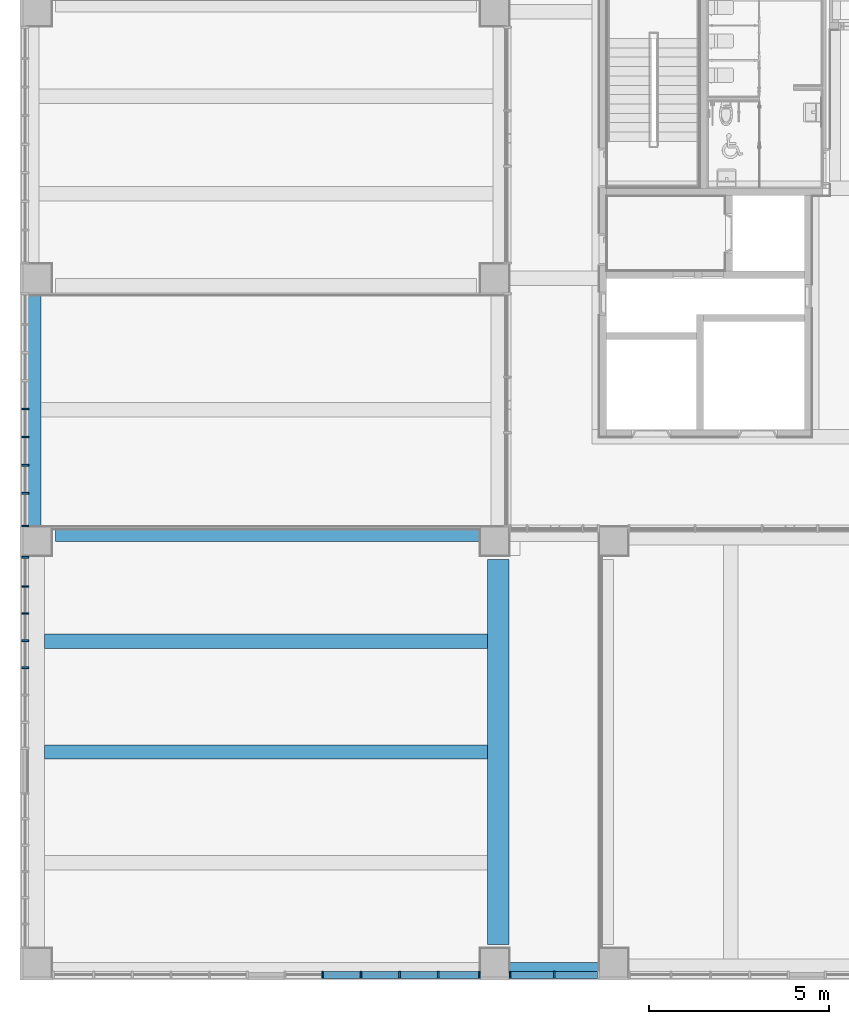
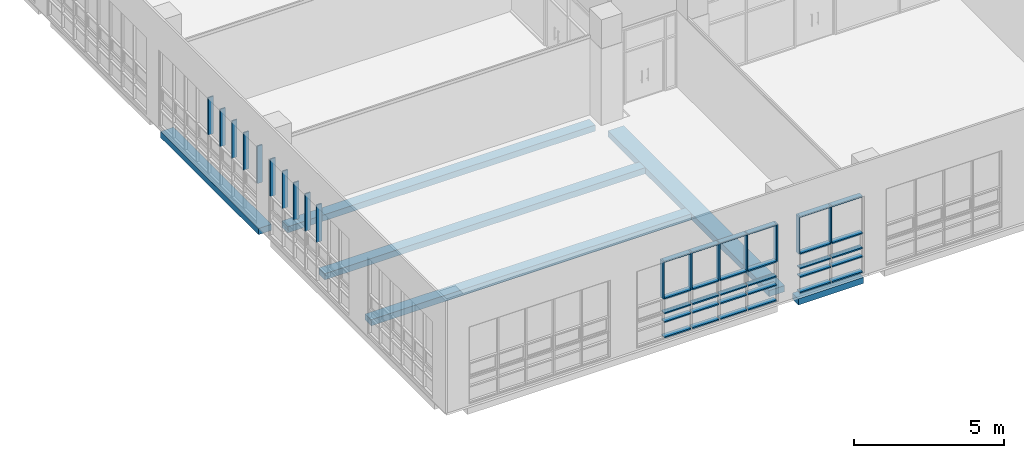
# One storey, part 3 of 74: 47 members, 6 beams, 4 elements without a shape of their own.
"""IFC2X3 building model written with IfcOpenShell, lengths in millimetres."""

import ifcopenshell
import ifcopenshell.guid

model = None  # the IFC model being written
_history = None  # IfcOwnerHistory: only IFC2X3 demands one
_inside = {}  # id of a spatial element -> (the spatial element, [elements in it])
_under = {}  # id of a project, library or spatial element -> (it, [spatial elements below it])
_declared = {}  # id of a project -> (the project, [libraries it declares])
_typed = {}  # id of a type object -> (the type object, [elements of that type])
_made_of = {}  # id of a material, layer set ... -> (it, [elements and type objects made of it])


def new_model(schema):
    """Start an empty IFC model of exactly this schema.

    Asked for "IFC4X3", IfcOpenShell would pick the latest addendum, in which some entities
    have other attributes; the version numbers below select the first issue.
    IFC2X3 requires an IfcOwnerHistory on every rooted entity: one is made here for all.
    """
    global model, _history
    if schema == "IFC4X3":
        model = ifcopenshell.file(schema_version=(4, 3, 0, 0))
    else:
        model = ifcopenshell.file(schema=schema)
    _inside.clear()
    _under.clear()
    _declared.clear()
    _typed.clear()
    _made_of.clear()
    _history = None
    if model.schema == "IFC2X3":
        org = make("IfcOrganization", Name="unknown")
        user = make(
            "IfcPersonAndOrganization",
            ThePerson=make("IfcPerson", FamilyName="unknown"),
            TheOrganization=org,
        )
        app = make(
            "IfcApplication",
            ApplicationDeveloper=org,
            Version="unknown",
            ApplicationFullName="unknown",
            ApplicationIdentifier="unknown",
        )
        _history = make(
            "IfcOwnerHistory",
            OwningUser=user,
            OwningApplication=app,
            ChangeAction="ADDED",
            CreationDate=0,
        )
    return model


def make(cls, **values):
    """One entity of the class cls with the attributes given. An attribute that is None is left unset."""
    return model.create_entity(
        cls, **{name: value for name, value in values.items() if value is not None}
    )


def entity(cls, *values):
    """Any entity or typed value of the class cls, its attributes in the order of the schema. None: left unset."""
    e = model.create_entity(cls)
    for i, value in enumerate(values):
        if value is not None:
            e[i] = value
    return e


def rooted(cls, **values):
    """An entity with a GlobalId (a new one), such as an element, a storey or a relation."""
    return make(cls, GlobalId=ifcopenshell.guid.new(), OwnerHistory=_history, **values)


def si_unit(unit_type, name, prefix=None):
    """IfcSIUnit, for example si_unit("LENGTHUNIT", "METRE", prefix="MILLI")."""
    return make("IfcSIUnit", UnitType=unit_type, Prefix=prefix, Name=name)


def converted_unit(unit_type, name, factor, base, dimensions=None, offset=None):
    """IfcConversionBasedUnit, such as the inch: factor (a typed value) times the base unit."""
    return make(
        "IfcConversionBasedUnit"
        if offset is None
        else "IfcConversionBasedUnitWithOffset",
        ConversionOffset=offset,
        Dimensions=None
        if dimensions is None
        else entity("IfcDimensionalExponents", *dimensions),
        UnitType=unit_type,
        Name=name,
        ConversionFactor=make(
            "IfcMeasureWithUnit", ValueComponent=factor, UnitComponent=base
        ),
    )


def derived_unit(unit_type, elements):
    """IfcDerivedUnit: a product of units, each with its exponent."""
    return make(
        "IfcDerivedUnit",
        Elements=[
            make("IfcDerivedUnitElement", Unit=unit, Exponent=power)
            for unit, power in elements
        ],
        UnitType=unit_type,
    )


def assignment(units):
    """IfcUnitAssignment: the units of a project."""
    return None if units is None else make("IfcUnitAssignment", Units=units)


def point(xyz):
    """IfcCartesianPoint."""
    return None if xyz is None else make("IfcCartesianPoint", Coordinates=xyz)


def direction(xyz):
    """IfcDirection."""
    return None if xyz is None else make("IfcDirection", DirectionRatios=xyz)


def frame(location, z_axis=None, x_axis=None):
    """IfcAxis2Placement3D, a coordinate frame: its origin and axes. An axis left out is left unset."""
    return make(
        "IfcAxis2Placement3D",
        Location=point(location),
        Axis=direction(z_axis),
        RefDirection=direction(x_axis),
    )


def frame_2d(location, x_axis=None):
    """IfcAxis2Placement2D, a coordinate frame in the plane: its origin and x axis."""
    return make(
        "IfcAxis2Placement2D", Location=point(location), RefDirection=direction(x_axis)
    )


def origin():
    """The frame at (0, 0, 0) with its axes left unset."""
    return frame((0.0, 0.0, 0.0))


def origin_2d_with_axis():
    """The frame at (0, 0) in the plane with the x axis (1, 0) written out."""
    return frame_2d((0.0, 0.0), x_axis=(1.0, 0.0))


def place(relative_to, where):
    """IfcLocalPlacement: puts the frame where relative to a parent placement (None: the world)."""
    return make(
        "IfcLocalPlacement", PlacementRelTo=relative_to, RelativePlacement=where
    )


def context(
    kind, dimensions, precision=None, world=None, true_north=None, identifier=None
):
    """IfcGeometricRepresentationContext, for example the 3D "Model" context."""
    return make(
        "IfcGeometricRepresentationContext",
        ContextIdentifier=identifier,
        ContextType=kind,
        CoordinateSpaceDimension=dimensions,
        Precision=precision,
        WorldCoordinateSystem=world,
        TrueNorth=true_north,
    )


def subcontext(parent, identifier, kind, view, scale=None):
    """IfcGeometricRepresentationSubContext, for example "Body" below "Model"."""
    return make(
        "IfcGeometricRepresentationSubContext",
        ContextIdentifier=identifier,
        ContextType=kind,
        ParentContext=parent,
        TargetScale=scale,
        TargetView=view,
    )


def project(units=None, contexts=None):
    """IfcProject with its units and contexts."""
    return rooted(
        "IfcProject",
        Name="project",
        RepresentationContexts=contexts,
        UnitsInContext=assignment(units),
    )


def spatial(cls, under=None, at=None, **own):
    """A site, building, storey or space (cls), placed at a placement, below another one or the project."""
    s = rooted(cls, ObjectPlacement=at, **own)
    if under is not None:
        _under.setdefault(under.id(), (under, []))[1].append(s)
    return s


def profile(cls, at=None, kind="AREA", **sizes):
    """A parametric profile (cls). Its sizes go by their IFC names, for example OverallWidth=200.0."""
    return make(cls, ProfileType=kind, Position=at, **sizes)


def rectangle(**sizes):
    """IfcRectangleProfileDef."""
    return profile("IfcRectangleProfileDef", **sizes)


def extrude(swept, where, along, depth):
    """IfcExtrudedAreaSolid: the profile swept, set in the frame where, extruded along a direction by depth."""
    return make(
        "IfcExtrudedAreaSolid",
        SweptArea=swept,
        Position=where,
        ExtrudedDirection=direction(along),
        Depth=depth,
    )


def shape(context_of_items, identifier, shape_type, items):
    """IfcShapeRepresentation: the items that make up one representation, for example the "Body"."""
    return make(
        "IfcShapeRepresentation",
        ContextOfItems=context_of_items,
        RepresentationIdentifier=identifier,
        RepresentationType=shape_type,
        Items=items,
    )


def source(mapping_origin, context_of_items, identifier, shape_type, items):
    """IfcRepresentationMap: a shape defined once, which mapped items show again and again."""
    return make(
        "IfcRepresentationMap",
        MappingOrigin=mapping_origin,
        MappedRepresentation=shape(context_of_items, identifier, shape_type, items),
    )


def transform(
    local_origin,
    x_axis=None,
    y_axis=None,
    z_axis=None,
    scale=None,
    scale2=None,
    scale3=None,
    uniform=True,
):
    """IfcCartesianTransformationOperator3D, or its non-uniform kind. x_axis, y_axis, z_axis: its Axis1, 2, 3."""
    if uniform:
        return make(
            "IfcCartesianTransformationOperator3D",
            Axis1=direction(x_axis),
            Axis2=direction(y_axis),
            LocalOrigin=point(local_origin),
            Scale=scale,
            Axis3=direction(z_axis),
        )
    return make(
        "IfcCartesianTransformationOperator3DnonUniform",
        Axis1=direction(x_axis),
        Axis2=direction(y_axis),
        LocalOrigin=point(local_origin),
        Scale=scale,
        Axis3=direction(z_axis),
        Scale2=scale2,
        Scale3=scale3,
    )


def mapped(mapping_source, mapping_target):
    """IfcMappedItem: shows the shape of a source again, moved by a transform."""
    return make(
        "IfcMappedItem", MappingSource=mapping_source, MappingTarget=mapping_target
    )


def material(Name=None, Category=None):
    """IfcMaterial."""
    return make("IfcMaterial", Name=Name, Category=Category)


def made_of(thing, what):
    """Note that an element or type object is made of a material, layer set ...; save() writes the relation."""
    if what is not None:
        _made_of.setdefault(what.id(), (what, []))[1].append(thing)
    return thing


def type_object(cls, material=None, **own):
    """A type object (cls), such as IfcWallType, which elements share."""
    return made_of(rooted(cls, **own), material)


def type_shapes(of_type, sources):
    """Give a type object the sources (RepresentationMaps) that its elements show as mapped items."""
    of_type.RepresentationMaps = sources


def element(
    cls,
    number,
    at=None,
    inside=None,
    cuts=None,
    type_object=None,
    material=None,
    context=None,
    identifier="Body",
    shape_type=None,
    held_by="IfcProductDefinitionShape",
    body=None,
    shapes=None,
    **own,
):
    """One element of the class cls, such as IfcWall. Its Tag is "e" and its number.

    at: its placement. inside: the storey or other place that contains it. cuts: it is an
    opening in that element (IfcRelVoidsElement). A single representation is given by context,
    identifier, shape_type and body (its items); several are given by shapes. held_by: the class
    of the entity that holds the representations. save() writes the other relations.
    """
    e = rooted(cls, Tag="e%d" % number, ObjectPlacement=at, **own)
    if body is not None:
        shapes = [shape(context, identifier, shape_type, body)]
    if shapes is not None:
        e.Representation = make(held_by, Representations=shapes)
    if inside is not None:
        _inside.setdefault(inside.id(), (inside, []))[1].append(e)
    if cuts is not None:
        rooted(
            "IfcRelVoidsElement", RelatingBuildingElement=cuts, RelatedOpeningElement=e
        )
    if type_object is not None:
        _typed.setdefault(type_object.id(), (type_object, []))[1].append(e)
    return made_of(e, material)


def aggregate(whole, parts):
    """IfcRelAggregates: a whole, such as a stair, and the parts it consists of."""
    return rooted("IfcRelAggregates", RelatingObject=whole, RelatedObjects=parts)


def save(model, path):
    """Write the relations noted so far, then the file.

    IfcRelAggregates (storeys below a building ...), IfcRelContainedInSpatialStructure (elements
    in a storey), IfcRelDefinesByType, IfcRelAssociatesMaterial and IfcRelDeclares: one each for
    every whole, place, type object, material and project.
    """
    for whole, parts in _under.values():
        aggregate(whole, parts)
    for where, things in _inside.values():
        rooted(
            "IfcRelContainedInSpatialStructure",
            RelatedElements=things,
            RelatingStructure=where,
        )
    for kind, things in _typed.values():
        rooted("IfcRelDefinesByType", RelatedObjects=things, RelatingType=kind)
    for what, things in _made_of.values():
        rooted("IfcRelAssociatesMaterial", RelatedObjects=things, RelatingMaterial=what)
    for by, libraries in _declared.values():
        rooted("IfcRelDeclares", RelatingContext=by, RelatedDefinitions=libraries)
    model.write(path)


model = new_model("IFC2X3")

# Units and contexts
model_context = context("Model", 3, precision=0.01, world=origin(), true_north=direction((6.123031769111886e-17, 1.0)))
body_context = subcontext(model_context, "Body", "Model", "MODEL_VIEW")
ifc_project = project(units=[si_unit("LENGTHUNIT", "METRE", prefix="MILLI"), si_unit("AREAUNIT", "SQUARE_METRE"), si_unit("VOLUMEUNIT", "CUBIC_METRE"), converted_unit("PLANEANGLEUNIT", "DEGREE", entity("IfcRatioMeasure", 0.017453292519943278), si_unit("PLANEANGLEUNIT", "RADIAN"), dimensions=[0, 0, 0, 0, 0, 0, 0]), si_unit("MASSUNIT", "GRAM", prefix="KILO"), derived_unit("MASSDENSITYUNIT", [(si_unit("MASSUNIT", "GRAM", prefix="KILO"), 1), (si_unit("LENGTHUNIT", "METRE"), -3)]), derived_unit("MOMENTOFINERTIAUNIT", [(si_unit("LENGTHUNIT", "METRE"), 4)]), si_unit("TIMEUNIT", "SECOND"), si_unit("FREQUENCYUNIT", "HERTZ"), si_unit("THERMODYNAMICTEMPERATUREUNIT", "DEGREE_CELSIUS"), derived_unit("THERMALTRANSMITTANCEUNIT", [(si_unit("MASSUNIT", "GRAM", prefix="KILO"), 1), (si_unit("THERMODYNAMICTEMPERATUREUNIT", "KELVIN"), -1), (si_unit("TIMEUNIT", "SECOND"), -3)]), derived_unit("VOLUMETRICFLOWRATEUNIT", [(si_unit("LENGTHUNIT", "METRE"), 3), (si_unit("TIMEUNIT", "SECOND"), -1)]), derived_unit("MASSFLOWRATEUNIT", [(si_unit("MASSUNIT", "GRAM", prefix="KILO"), 1), (si_unit("TIMEUNIT", "SECOND"), -1)]), derived_unit("ROTATIONALFREQUENCYUNIT", [(si_unit("TIMEUNIT", "SECOND"), -1)]), si_unit("ELECTRICCURRENTUNIT", "AMPERE"), si_unit("ELECTRICVOLTAGEUNIT", "VOLT"), si_unit("POWERUNIT", "WATT"), si_unit("FORCEUNIT", "NEWTON", prefix="KILO"), si_unit("ILLUMINANCEUNIT", "LUX"), si_unit("LUMINOUSFLUXUNIT", "LUMEN"), si_unit("LUMINOUSINTENSITYUNIT", "CANDELA"), derived_unit("USERDEFINED", [(si_unit("MASSUNIT", "GRAM", prefix="KILO"), -1), (si_unit("LENGTHUNIT", "METRE"), -2), (si_unit("TIMEUNIT", "SECOND"), 3), (si_unit("LUMINOUSFLUXUNIT", "LUMEN"), 1)]), derived_unit("SOUNDPOWERUNIT", [(si_unit("MASSUNIT", "GRAM", prefix="KILO"), 1), (si_unit("LENGTHUNIT", "METRE"), 2), (si_unit("TIMEUNIT", "SECOND"), -3)]), derived_unit("SOUNDPRESSUREUNIT", [(si_unit("MASSUNIT", "GRAM", prefix="KILO"), 1), (si_unit("LENGTHUNIT", "METRE"), -1), (si_unit("TIMEUNIT", "SECOND"), -2)]), derived_unit("LINEARVELOCITYUNIT", [(si_unit("LENGTHUNIT", "METRE"), 1), (si_unit("TIMEUNIT", "SECOND"), -1)]), si_unit("PRESSUREUNIT", "PASCAL"), derived_unit("USERDEFINED", [(si_unit("LENGTHUNIT", "METRE"), -2), (si_unit("MASSUNIT", "GRAM", prefix="KILO"), 1), (si_unit("TIMEUNIT", "SECOND"), -2)]), derived_unit("LINEARFORCEUNIT", [(si_unit("MASSUNIT", "GRAM", prefix="KILO"), 1), (si_unit("LENGTHUNIT", "METRE"), 1), (si_unit("TIMEUNIT", "SECOND"), -2), (si_unit("LENGTHUNIT", "METRE"), -1)]), derived_unit("PLANARFORCEUNIT", [(si_unit("MASSUNIT", "GRAM", prefix="KILO"), 1), (si_unit("LENGTHUNIT", "METRE"), 1), (si_unit("TIMEUNIT", "SECOND"), -2), (si_unit("LENGTHUNIT", "METRE"), -2)])], contexts=[model_context])

# Site, building, storey
site_placement = place(None, frame((-14167.972527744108, -657.2125860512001, 0.0)))
site = spatial("IfcSite", under=ifc_project, at=site_placement, Name="Default", CompositionType="ELEMENT")
building_placement = place(site_placement, origin())
building = spatial("IfcBuilding", under=site, at=building_placement, Name="Sample Building", CompositionType="ELEMENT")
storey_placement = place(building_placement, frame((0.0, 0.0, 4800.0)))
storey = spatial("IfcBuildingStorey", under=building, at=storey_placement, Name="지상 2층", CompositionType="ELEMENT", Elevation=4800.000000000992)

# Curtain wall, members
curtain_wall_type = type_object("IfcCurtainWallType", Name="커튼월:CW112-스테인리스 스틸 커튼월", PredefinedType="NOTDEFINED")
curtain_wall_1_placement = place(storey_placement, frame((0.0, 0.0, -4800.0)))
curtain_wall_1 = element("IfcCurtainWall", 1, at=curtain_wall_1_placement, inside=storey, type_object=curtain_wall_type, Name="커튼월:CW112-스테인리스 스틸 커튼월", ObjectType="커튼월:CW112-스테인리스 스틸 커튼월")
ifc_material_1 = material(Name="<Unnamed>")
member_type_1 = type_object("IfcMemberType", Name="직사각형 멀리언:CW200-직사각형 멀리언 50x200mm", PredefinedType="MULLION", material=ifc_material_1)
shared_shape_1 = source(origin(), body_context, "Body", "SweptSolid", [
    extrude(rectangle(XDim=200.0, YDim=50.0, at=origin_2d_with_axis()), frame((-25.0, 0.0, -1175.0), z_axis=(0.0, 0.0, 1.0), x_axis=(0.0, -1.0, 0.0)), (0.0, 0.0, 1.0), 1175.0000000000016),
])
type_shapes(member_type_1, [shared_shape_1])
member_1_placement = place(curtain_wall_1_placement, frame((27617.972491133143, 619.712295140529, 4880.0), z_axis=(-1.0, 0.0, 0.0), x_axis=(0.0, 0.0, -1.0)))
member_1 = element("IfcMember", 2, at=member_1_placement, type_object=member_type_1, material=ifc_material_1, Name="직사각형 멀리언:CW200-직사각형 멀리언 50x200mm", ObjectType="직사각형 멀리언:CW200-직사각형 멀리언 50x200mm", context=body_context, shape_type="MappedRepresentation", body=[
    mapped(shared_shape_1, transform((0.0, 0.0, 0.0), scale=1.0)),
])
member_2_placement = place(curtain_wall_1_placement, frame((28842.83938591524, 619.7122951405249, 4880.0), z_axis=(-1.0, 0.0, 0.0), x_axis=(0.0, 0.0, -1.0)))
member_2 = element("IfcMember", 3, at=member_2_placement, type_object=member_type_1, material=ifc_material_1, Name="직사각형 멀리언:CW200-직사각형 멀리언 50x200mm", ObjectType="직사각형 멀리언:CW200-직사각형 멀리언 50x200mm", context=body_context, shape_type="MappedRepresentation", body=[
    mapped(shared_shape_1, transform((0.0, 0.0, 0.0), scale=1.0)),
])
member_type_2 = type_object("IfcMemberType", Name="직사각형 멀리언:CW200-직사각형 멀리언 50x200mm", PredefinedType="MULLION", material=ifc_material_1)
shared_shape_2 = source(origin(), body_context, "Body", "SweptSolid", [
    extrude(rectangle(XDim=200.0, YDim=50.0, at=origin_2d_with_axis()), frame((-25.0, 0.0, -1175.0), z_axis=(0.0, 0.0, 1.0), x_axis=(0.0, -1.0, 0.0)), (0.0, 0.0, 1.0), 1175.000000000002),
])
type_shapes(member_type_2, [shared_shape_2])
member_3_placement = place(curtain_wall_1_placement, frame((30017.972463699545, 619.7122951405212, 8000.0), z_axis=(1.0, 0.0, 0.0), x_axis=(0.0, 0.0, 1.0)))
member_3 = element("IfcMember", 4, at=member_3_placement, type_object=member_type_2, material=ifc_material_1, Name="직사각형 멀리언:CW200-직사각형 멀리언 50x200mm", ObjectType="직사각형 멀리언:CW200-직사각형 멀리언 50x200mm", context=body_context, shape_type="MappedRepresentation", body=[
    mapped(shared_shape_2, transform((0.0, 0.0, 0.0), scale=1.0)),
])
member_4_placement = place(curtain_wall_1_placement, frame((28792.83938591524, 619.7122951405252, 8000.0), z_axis=(1.0, 0.0, 0.0), x_axis=(0.0, 0.0, 1.0)))
member_4 = element("IfcMember", 5, at=member_4_placement, type_object=member_type_2, material=ifc_material_1, Name="직사각형 멀리언:CW200-직사각형 멀리언 50x200mm", ObjectType="직사각형 멀리언:CW200-직사각형 멀리언 50x200mm", context=body_context, shape_type="MappedRepresentation", body=[
    mapped(shared_shape_2, transform((0.0, 0.0, 0.0), scale=1.0)),
])
member_type_3 = type_object("IfcMemberType", Name="직사각형 멀리언:CW200-직사각형 멀리언 50x200mm", PredefinedType="MULLION", material=ifc_material_1)
shared_shape_3 = source(origin(), body_context, "Body", "SweptSolid", [
    extrude(rectangle(XDim=200.0, YDim=50.0, at=origin_2d_with_axis()), frame((0.0, 0.0, -1175.0), z_axis=(0.0, 0.0, 1.0), x_axis=(0.0, -1.0, 0.0)), (0.0, 0.0, 1.0), 1175.0000000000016),
])
type_shapes(member_type_3, [shared_shape_3])
member_5_placement = place(curtain_wall_1_placement, frame((28792.83938591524, 619.7122951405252, 6480.0), z_axis=(1.0, 0.0, 0.0), x_axis=(0.0, 0.0, 1.0)))
member_5 = element("IfcMember", 6, at=member_5_placement, type_object=member_type_3, material=ifc_material_1, Name="직사각형 멀리언:CW200-직사각형 멀리언 50x200mm", ObjectType="직사각형 멀리언:CW200-직사각형 멀리언 50x200mm", context=body_context, shape_type="MappedRepresentation", body=[
    mapped(shared_shape_3, transform((0.0, 0.0, 0.0), scale=1.0)),
])
member_6_placement = place(curtain_wall_1_placement, frame((30017.972463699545, 619.7122951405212, 6480.0), z_axis=(1.0, 0.0, 0.0), x_axis=(0.0, 0.0, 1.0)))
member_6 = element("IfcMember", 7, at=member_6_placement, type_object=member_type_3, material=ifc_material_1, Name="직사각형 멀리언:CW200-직사각형 멀리언 50x200mm", ObjectType="직사각형 멀리언:CW200-직사각형 멀리언 50x200mm", context=body_context, shape_type="MappedRepresentation", body=[
    mapped(shared_shape_3, transform((0.0, 0.0, 0.0), scale=1.0)),
])
member_7_placement = place(curtain_wall_1_placement, frame((28792.83938591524, 619.7122951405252, 5880.0), z_axis=(1.0, 0.0, 0.0), x_axis=(0.0, 0.0, 1.0)))
member_7 = element("IfcMember", 8, at=member_7_placement, type_object=member_type_3, material=ifc_material_1, Name="직사각형 멀리언:CW200-직사각형 멀리언 50x200mm", ObjectType="직사각형 멀리언:CW200-직사각형 멀리언 50x200mm", context=body_context, shape_type="MappedRepresentation", body=[
    mapped(shared_shape_3, transform((0.0, 0.0, 0.0), scale=1.0)),
])
member_8_placement = place(curtain_wall_1_placement, frame((30017.972463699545, 619.7122951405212, 5880.0), z_axis=(1.0, 0.0, 0.0), x_axis=(0.0, 0.0, 1.0)))
member_8 = element("IfcMember", 9, at=member_8_placement, type_object=member_type_3, material=ifc_material_1, Name="직사각형 멀리언:CW200-직사각형 멀리언 50x200mm", ObjectType="직사각형 멀리언:CW200-직사각형 멀리언 50x200mm", context=body_context, shape_type="MappedRepresentation", body=[
    mapped(shared_shape_3, transform((0.0, 0.0, 0.0), scale=1.0)),
])
member_9_placement = place(curtain_wall_1_placement, frame((28792.83938591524, 619.7122951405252, 5530.0), z_axis=(1.0, 0.0, 0.0), x_axis=(0.0, 0.0, 1.0)))
member_9 = element("IfcMember", 10, at=member_9_placement, type_object=member_type_3, material=ifc_material_1, Name="직사각형 멀리언:CW200-직사각형 멀리언 50x200mm", ObjectType="직사각형 멀리언:CW200-직사각형 멀리언 50x200mm", context=body_context, shape_type="MappedRepresentation", body=[
    mapped(shared_shape_3, transform((0.0, 0.0, 0.0), scale=1.0)),
])
member_10_placement = place(curtain_wall_1_placement, frame((30017.972463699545, 619.7122951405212, 5530.0), z_axis=(1.0, 0.0, 0.0), x_axis=(0.0, 0.0, 1.0)))
member_10 = element("IfcMember", 11, at=member_10_placement, type_object=member_type_3, material=ifc_material_1, Name="직사각형 멀리언:CW200-직사각형 멀리언 50x200mm", ObjectType="직사각형 멀리언:CW200-직사각형 멀리언 50x200mm", context=body_context, shape_type="MappedRepresentation", body=[
    mapped(shared_shape_3, transform((0.0, 0.0, 0.0), scale=1.0)),
])

# Curtain wall, member
curtain_wall_2_placement = place(storey_placement, frame((0.0, 0.0, -4800.0)))
curtain_wall_2 = element("IfcCurtainWall", 12, at=curtain_wall_2_placement, inside=storey, type_object=curtain_wall_type, Name="커튼월:CW112-스테인리스 스틸 커튼월", ObjectType="커튼월:CW112-스테인리스 스틸 커튼월")
member_type_4 = type_object("IfcMemberType", Name="직사각형 멀리언:CW200-직사각형 멀리언 50x200mm", PredefinedType="MULLION", material=ifc_material_1)
shared_shape_4 = source(origin(), body_context, "Body", "SweptSolid", [
    extrude(rectangle(XDim=200.0, YDim=50.0, at=origin_2d_with_axis()), frame((-25.0, 0.0, -1520.0), z_axis=(0.0, 0.0, 1.0), x_axis=(0.0, -1.0, 0.0)), (0.0, 0.0, 1.0), 1520.0000000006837),
])
type_shapes(member_type_4, [shared_shape_4])
member_11_placement = place(curtain_wall_2_placement, frame((14130.472570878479, 12239.212307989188, 8000.0), z_axis=(0.0, 0.0, 1.0), x_axis=(0.0, 1.0, 0.0)))
member_11 = element("IfcMember", 13, at=member_11_placement, type_object=member_type_4, material=ifc_material_1, Name="직사각형 멀리언:CW200-직사각형 멀리언 50x200mm", ObjectType="직사각형 멀리언:CW200-직사각형 멀리언 50x200mm", context=body_context, shape_type="MappedRepresentation", body=[
    mapped(shared_shape_4, transform((0.0, 0.0, 0.0), scale=1.0)),
])

# Member
member_12_placement = place(curtain_wall_1_placement, frame((27567.97249113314, 619.7122951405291, 8000.0), z_axis=(0.0, 0.0, 1.0), x_axis=(-1.0, 0.0, 0.0)))
member_12 = element("IfcMember", 14, at=member_12_placement, type_object=member_type_4, material=ifc_material_1, Name="직사각형 멀리언:CW200-직사각형 멀리언 50x200mm", ObjectType="직사각형 멀리언:CW200-직사각형 멀리언 50x200mm", context=body_context, shape_type="MappedRepresentation", body=[
    mapped(shared_shape_4, transform((0.0, 0.0, 0.0), scale=1.0)),
])

# Curtain wall, member
curtain_wall_3_placement = place(storey_placement, frame((0.0, 0.0, -4800.0)))
curtain_wall_3 = element("IfcCurtainWall", 15, at=curtain_wall_3_placement, inside=storey, type_object=curtain_wall_type, Name="커튼월:CW112-스테인리스 스틸 커튼월", ObjectType="커튼월:CW112-스테인리스 스틸 커튼월")
member_type_5 = type_object("IfcMemberType", Name="직사각형 멀리언:CW200-직사각형 멀리언 50x200mm", PredefinedType="MULLION", material=ifc_material_1)
shared_shape_5 = source(origin(), body_context, "Body", "SweptSolid", [
    extrude(rectangle(XDim=200.0, YDim=50.0, at=origin_2d_with_axis()), frame((-25.0, 0.0, -1520.0), z_axis=(0.0, 0.0, 1.0), x_axis=(0.0, -1.0, 0.0)), (0.0, 0.0, 1.0), 1520.0000000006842),
])
type_shapes(member_type_5, [shared_shape_5])
member_13_placement = place(curtain_wall_3_placement, frame((14130.47257087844, 13057.212307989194, 6480.0), z_axis=(0.0, 0.0, -1.0), x_axis=(0.0, -1.0, 0.0)))
member_13 = element("IfcMember", 16, at=member_13_placement, type_object=member_type_5, material=ifc_material_1, Name="직사각형 멀리언:CW200-직사각형 멀리언 50x200mm", ObjectType="직사각형 멀리언:CW200-직사각형 멀리언 50x200mm", context=body_context, shape_type="MappedRepresentation", body=[
    mapped(shared_shape_5, transform((0.0, 0.0, 0.0), scale=1.0)),
])

curtain_wall_4_placement = place(storey_placement, frame((0.0, 0.0, -4800.0)))
curtain_wall_4 = element("IfcCurtainWall", 17, at=curtain_wall_4_placement, inside=storey, type_object=curtain_wall_type, Name="커튼월:CW112-스테인리스 스틸 커튼월", ObjectType="커튼월:CW112-스테인리스 스틸 커튼월")
member_14_placement = place(curtain_wall_4_placement, frame((26767.97249113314, 619.7122951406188, 6480.0), z_axis=(0.0, 0.0, -1.0), x_axis=(1.0, 0.0, 0.0)))
member_14 = element("IfcMember", 18, at=member_14_placement, type_object=member_type_5, material=ifc_material_1, Name="직사각형 멀리언:CW200-직사각형 멀리언 50x200mm", ObjectType="직사각형 멀리언:CW200-직사각형 멀리언 50x200mm", context=body_context, shape_type="MappedRepresentation", body=[
    mapped(shared_shape_5, transform((0.0, 0.0, 0.0), scale=1.0)),
])

# Member
member_type_6 = type_object("IfcMemberType", Name="직사각형 멀리언:CW200-직사각형 멀리언 50x200mm", PredefinedType="MULLION", material=ifc_material_1)
shared_shape_6 = source(origin(), body_context, "Body", "SweptSolid", [
    extrude(rectangle(XDim=200.0, YDim=50.0, at=origin_2d_with_axis()), frame((0.0, 0.0, -1520.0), z_axis=(0.0, 0.0, 1.0), x_axis=(0.0, -1.0, 0.0)), (0.0, 0.0, 1.0), 1520.0000000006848),
])
type_shapes(member_type_6, [shared_shape_6])
member_15_placement = place(curtain_wall_3_placement, frame((14130.472570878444, 16332.212275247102, 6480.0), z_axis=(0.0, 0.0, -1.0), x_axis=(0.0, -1.0, 0.0)))
member_15 = element("IfcMember", 19, at=member_15_placement, type_object=member_type_6, material=ifc_material_1, Name="직사각형 멀리언:CW200-직사각형 멀리언 50x200mm", ObjectType="직사각형 멀리언:CW200-직사각형 멀리언 50x200mm", context=body_context, shape_type="MappedRepresentation", body=[
    mapped(shared_shape_6, transform((0.0, 0.0, 0.0), scale=1.0)),
])

member_16_placement = place(curtain_wall_3_placement, frame((14130.472570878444, 15550.962275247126, 6480.0), z_axis=(0.0, 0.0, -1.0), x_axis=(0.0, -1.0, 0.0)))
member_16 = element("IfcMember", 20, at=member_16_placement, type_object=member_type_6, material=ifc_material_1, Name="직사각형 멀리언:CW200-직사각형 멀리언 50x200mm", ObjectType="직사각형 멀리언:CW200-직사각형 멀리언 50x200mm", context=body_context, shape_type="MappedRepresentation", body=[
    mapped(shared_shape_6, transform((0.0, 0.0, 0.0), scale=1.0)),
])

member_17_placement = place(curtain_wall_3_placement, frame((14130.472570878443, 14769.712275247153, 6480.0), z_axis=(0.0, 0.0, -1.0), x_axis=(0.0, -1.0, 0.0)))
member_17 = element("IfcMember", 21, at=member_17_placement, type_object=member_type_6, material=ifc_material_1, Name="직사각형 멀리언:CW200-직사각형 멀리언 50x200mm", ObjectType="직사각형 멀리언:CW200-직사각형 멀리언 50x200mm", context=body_context, shape_type="MappedRepresentation", body=[
    mapped(shared_shape_6, transform((0.0, 0.0, 0.0), scale=1.0)),
])

member_18_placement = place(curtain_wall_3_placement, frame((14130.472570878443, 13988.462275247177, 6480.0), z_axis=(0.0, 0.0, -1.0), x_axis=(0.0, -1.0, 0.0)))
member_18 = element("IfcMember", 22, at=member_18_placement, type_object=member_type_6, material=ifc_material_1, Name="직사각형 멀리언:CW200-직사각형 멀리언 50x200mm", ObjectType="직사각형 멀리언:CW200-직사각형 멀리언 50x200mm", context=body_context, shape_type="MappedRepresentation", body=[
    mapped(shared_shape_6, transform((0.0, 0.0, 0.0), scale=1.0)),
])

aggregate(curtain_wall_3, [member_13, member_15, member_16, member_17, member_18])

member_19_placement = place(curtain_wall_2_placement, frame((14130.472570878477, 11403.640846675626, 6480.0), z_axis=(0.0, 0.0, -1.0), x_axis=(0.0, -1.0, 0.0)))
member_19 = element("IfcMember", 23, at=member_19_placement, type_object=member_type_6, material=ifc_material_1, Name="직사각형 멀리언:CW200-직사각형 멀리언 50x200mm", ObjectType="직사각형 멀리언:CW200-직사각형 멀리언 50x200mm", context=body_context, shape_type="MappedRepresentation", body=[
    mapped(shared_shape_6, transform((0.0, 0.0, 0.0), scale=1.0)),
])

member_20_placement = place(curtain_wall_2_placement, frame((14130.472570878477, 10650.069418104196, 6480.0), z_axis=(0.0, 0.0, -1.0), x_axis=(0.0, -1.0, 0.0)))
member_20 = element("IfcMember", 24, at=member_20_placement, type_object=member_type_6, material=ifc_material_1, Name="직사각형 멀리언:CW200-직사각형 멀리언 50x200mm", ObjectType="직사각형 멀리언:CW200-직사각형 멀리언 50x200mm", context=body_context, shape_type="MappedRepresentation", body=[
    mapped(shared_shape_6, transform((0.0, 0.0, 0.0), scale=1.0)),
])

member_21_placement = place(curtain_wall_2_placement, frame((14130.472570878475, 9896.497989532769, 6480.0), z_axis=(0.0, 0.0, -1.0), x_axis=(0.0, -1.0, 0.0)))
member_21 = element("IfcMember", 25, at=member_21_placement, type_object=member_type_6, material=ifc_material_1, Name="직사각형 멀리언:CW200-직사각형 멀리언 50x200mm", ObjectType="직사각형 멀리언:CW200-직사각형 멀리언 50x200mm", context=body_context, shape_type="MappedRepresentation", body=[
    mapped(shared_shape_6, transform((0.0, 0.0, 0.0), scale=1.0)),
])

member_22_placement = place(curtain_wall_2_placement, frame((14130.472570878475, 9142.92656096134, 6480.0), z_axis=(0.0, 0.0, -1.0), x_axis=(0.0, -1.0, 0.0)))
member_22 = element("IfcMember", 26, at=member_22_placement, type_object=member_type_6, material=ifc_material_1, Name="직사각형 멀리언:CW200-직사각형 멀리언 50x200mm", ObjectType="직사각형 멀리언:CW200-직사각형 멀리언 50x200mm", context=body_context, shape_type="MappedRepresentation", body=[
    mapped(shared_shape_6, transform((0.0, 0.0, 0.0), scale=1.0)),
])

aggregate(curtain_wall_2, [member_11, member_19, member_20, member_21, member_22])

member_23_placement = place(curtain_wall_4_placement, frame((22387.857532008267, 619.712295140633, 6480.0), z_axis=(0.0, 0.0, -1.0), x_axis=(1.0, 0.0, 0.0)))
member_23 = element("IfcMember", 27, at=member_23_placement, type_object=member_type_6, material=ifc_material_1, Name="직사각형 멀리언:CW200-직사각형 멀리언 50x200mm", ObjectType="직사각형 멀리언:CW200-직사각형 멀리언 50x200mm", context=body_context, shape_type="MappedRepresentation", body=[
    mapped(shared_shape_6, transform((0.0, 0.0, 0.0), scale=1.0)),
])

member_24_placement = place(curtain_wall_4_placement, frame((23457.857532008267, 619.7122951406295, 6480.0), z_axis=(0.0, 0.0, -1.0), x_axis=(1.0, 0.0, 0.0)))
member_24 = element("IfcMember", 28, at=member_24_placement, type_object=member_type_6, material=ifc_material_1, Name="직사각형 멀리언:CW200-직사각형 멀리언 50x200mm", ObjectType="직사각형 멀리언:CW200-직사각형 멀리언 50x200mm", context=body_context, shape_type="MappedRepresentation", body=[
    mapped(shared_shape_6, transform((0.0, 0.0, 0.0), scale=1.0)),
])

member_25_placement = place(curtain_wall_4_placement, frame((24527.85753200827, 619.7122951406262, 6480.0), z_axis=(0.0, 0.0, -1.0), x_axis=(1.0, 0.0, 0.0)))
member_25 = element("IfcMember", 29, at=member_25_placement, type_object=member_type_6, material=ifc_material_1, Name="직사각형 멀리언:CW200-직사각형 멀리언 50x200mm", ObjectType="직사각형 멀리언:CW200-직사각형 멀리언 50x200mm", context=body_context, shape_type="MappedRepresentation", body=[
    mapped(shared_shape_6, transform((0.0, 0.0, 0.0), scale=1.0)),
])

member_26_placement = place(curtain_wall_4_placement, frame((25597.85753200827, 619.7122951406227, 6480.0), z_axis=(0.0, 0.0, -1.0), x_axis=(1.0, 0.0, 0.0)))
member_26 = element("IfcMember", 30, at=member_26_placement, type_object=member_type_6, material=ifc_material_1, Name="직사각형 멀리언:CW200-직사각형 멀리언 50x200mm", ObjectType="직사각형 멀리언:CW200-직사각형 멀리언 50x200mm", context=body_context, shape_type="MappedRepresentation", body=[
    mapped(shared_shape_6, transform((0.0, 0.0, 0.0), scale=1.0)),
])

member_27_placement = place(curtain_wall_1_placement, frame((28817.83938591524, 619.712295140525, 6480.0), z_axis=(0.0, 0.0, -1.0), x_axis=(1.0, 0.0, 0.0)))
member_27 = element("IfcMember", 31, at=member_27_placement, type_object=member_type_6, material=ifc_material_1, Name="직사각형 멀리언:CW200-직사각형 멀리언 50x200mm", ObjectType="직사각형 멀리언:CW200-직사각형 멀리언 50x200mm", context=body_context, shape_type="MappedRepresentation", body=[
    mapped(shared_shape_6, transform((0.0, 0.0, 0.0), scale=1.0)),
])

aggregate(curtain_wall_1, [member_3, member_1, member_12, member_4, member_2, member_5, member_6, member_27, member_7, member_8, member_9, member_10])

member_type_7 = type_object("IfcMemberType", Name="직사각형 멀리언:CW200-직사각형 멀리언 50x200mm", PredefinedType="MULLION", material=ifc_material_1)
shared_shape_7 = source(origin(), body_context, "Body", "SweptSolid", [
    extrude(rectangle(XDim=200.0, YDim=50.0, at=origin_2d_with_axis()), frame((-25.0, 0.0, -1020.0), z_axis=(0.0, 0.0, 1.0), x_axis=(0.0, -1.0, 0.0)), (0.0, 0.0, 1.0), 1020.000000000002),
])
type_shapes(member_type_7, [shared_shape_7])
member_28_placement = place(curtain_wall_4_placement, frame((22412.857532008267, 619.7122951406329, 4880.0), z_axis=(-1.0, 0.0, 0.0), x_axis=(0.0, 0.0, -1.0)))
member_28 = element("IfcMember", 32, at=member_28_placement, type_object=member_type_7, material=ifc_material_1, Name="직사각형 멀리언:CW200-직사각형 멀리언 50x200mm", ObjectType="직사각형 멀리언:CW200-직사각형 멀리언 50x200mm", context=body_context, shape_type="MappedRepresentation", body=[
    mapped(shared_shape_7, transform((0.0, 0.0, 0.0), scale=1.0)),
])

member_29_placement = place(curtain_wall_4_placement, frame((23482.857532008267, 619.7122951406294, 4880.0), z_axis=(-1.0, 0.0, 0.0), x_axis=(0.0, 0.0, -1.0)))
member_29 = element("IfcMember", 33, at=member_29_placement, type_object=member_type_7, material=ifc_material_1, Name="직사각형 멀리언:CW200-직사각형 멀리언 50x200mm", ObjectType="직사각형 멀리언:CW200-직사각형 멀리언 50x200mm", context=body_context, shape_type="MappedRepresentation", body=[
    mapped(shared_shape_7, transform((0.0, 0.0, 0.0), scale=1.0)),
])

member_30_placement = place(curtain_wall_4_placement, frame((24552.85753200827, 619.712295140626, 4880.0), z_axis=(-1.0, 0.0, 0.0), x_axis=(0.0, 0.0, -1.0)))
member_30 = element("IfcMember", 34, at=member_30_placement, type_object=member_type_7, material=ifc_material_1, Name="직사각형 멀리언:CW200-직사각형 멀리언 50x200mm", ObjectType="직사각형 멀리언:CW200-직사각형 멀리언 50x200mm", context=body_context, shape_type="MappedRepresentation", body=[
    mapped(shared_shape_7, transform((0.0, 0.0, 0.0), scale=1.0)),
])

member_type_8 = type_object("IfcMemberType", Name="직사각형 멀리언:CW200-직사각형 멀리언 50x200mm", PredefinedType="MULLION", material=ifc_material_1)
shared_shape_8 = source(origin(), body_context, "Body", "SweptSolid", [
    extrude(rectangle(XDim=200.0, YDim=50.0, at=origin_2d_with_axis()), frame((-25.0, 0.0, -1020.0), z_axis=(0.0, 0.0, 1.0), x_axis=(0.0, -1.0, 0.0)), (0.0, 0.0, 1.0), 1020.000000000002),
])
type_shapes(member_type_8, [shared_shape_8])
member_31_placement = place(curtain_wall_4_placement, frame((23432.857532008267, 619.7122951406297, 8000.0), z_axis=(1.0, 0.0, 0.0), x_axis=(0.0, 0.0, 1.0)))
member_31 = element("IfcMember", 35, at=member_31_placement, type_object=member_type_8, material=ifc_material_1, Name="직사각형 멀리언:CW200-직사각형 멀리언 50x200mm", ObjectType="직사각형 멀리언:CW200-직사각형 멀리언 50x200mm", context=body_context, shape_type="MappedRepresentation", body=[
    mapped(shared_shape_8, transform((0.0, 0.0, 0.0), scale=1.0)),
])

member_32_placement = place(curtain_wall_4_placement, frame((24502.85753200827, 619.7122951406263, 8000.0), z_axis=(1.0, 0.0, 0.0), x_axis=(0.0, 0.0, 1.0)))
member_32 = element("IfcMember", 36, at=member_32_placement, type_object=member_type_8, material=ifc_material_1, Name="직사각형 멀리언:CW200-직사각형 멀리언 50x200mm", ObjectType="직사각형 멀리언:CW200-직사각형 멀리언 50x200mm", context=body_context, shape_type="MappedRepresentation", body=[
    mapped(shared_shape_8, transform((0.0, 0.0, 0.0), scale=1.0)),
])

member_33_placement = place(curtain_wall_4_placement, frame((25572.85753200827, 619.7122951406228, 8000.0), z_axis=(1.0, 0.0, 0.0), x_axis=(0.0, 0.0, 1.0)))
member_33 = element("IfcMember", 37, at=member_33_placement, type_object=member_type_8, material=ifc_material_1, Name="직사각형 멀리언:CW200-직사각형 멀리언 50x200mm", ObjectType="직사각형 멀리언:CW200-직사각형 멀리언 50x200mm", context=body_context, shape_type="MappedRepresentation", body=[
    mapped(shared_shape_8, transform((0.0, 0.0, 0.0), scale=1.0)),
])

member_type_9 = type_object("IfcMemberType", Name="직사각형 멀리언:CW200-직사각형 멀리언 50x200mm", PredefinedType="MULLION", material=ifc_material_1)
shared_shape_9 = source(origin(), body_context, "Body", "SweptSolid", [
    extrude(rectangle(XDim=200.0, YDim=50.0, at=origin_2d_with_axis()), frame((0.0, 0.0, -1020.0), z_axis=(0.0, 0.0, 1.0), x_axis=(0.0, -1.0, 0.0)), (0.0, 0.0, 1.0), 1020.000000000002),
])
type_shapes(member_type_9, [shared_shape_9])
member_34_placement = place(curtain_wall_4_placement, frame((23432.857532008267, 619.7122951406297, 6480.0), z_axis=(1.0, 0.0, 0.0), x_axis=(0.0, 0.0, 1.0)))
member_34 = element("IfcMember", 38, at=member_34_placement, type_object=member_type_9, material=ifc_material_1, Name="직사각형 멀리언:CW200-직사각형 멀리언 50x200mm", ObjectType="직사각형 멀리언:CW200-직사각형 멀리언 50x200mm", context=body_context, shape_type="MappedRepresentation", body=[
    mapped(shared_shape_9, transform((0.0, 0.0, 0.0), scale=1.0)),
])

member_35_placement = place(curtain_wall_4_placement, frame((24502.85753200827, 619.7122951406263, 6480.0), z_axis=(1.0, 0.0, 0.0), x_axis=(0.0, 0.0, 1.0)))
member_35 = element("IfcMember", 39, at=member_35_placement, type_object=member_type_9, material=ifc_material_1, Name="직사각형 멀리언:CW200-직사각형 멀리언 50x200mm", ObjectType="직사각형 멀리언:CW200-직사각형 멀리언 50x200mm", context=body_context, shape_type="MappedRepresentation", body=[
    mapped(shared_shape_9, transform((0.0, 0.0, 0.0), scale=1.0)),
])

member_36_placement = place(curtain_wall_4_placement, frame((25572.85753200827, 619.7122951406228, 6480.0), z_axis=(1.0, 0.0, 0.0), x_axis=(0.0, 0.0, 1.0)))
member_36 = element("IfcMember", 40, at=member_36_placement, type_object=member_type_9, material=ifc_material_1, Name="직사각형 멀리언:CW200-직사각형 멀리언 50x200mm", ObjectType="직사각형 멀리언:CW200-직사각형 멀리언 50x200mm", context=body_context, shape_type="MappedRepresentation", body=[
    mapped(shared_shape_9, transform((0.0, 0.0, 0.0), scale=1.0)),
])

member_37_placement = place(curtain_wall_4_placement, frame((23432.857532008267, 619.7122951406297, 5880.0), z_axis=(1.0, 0.0, 0.0), x_axis=(0.0, 0.0, 1.0)))
member_37 = element("IfcMember", 41, at=member_37_placement, type_object=member_type_9, material=ifc_material_1, Name="직사각형 멀리언:CW200-직사각형 멀리언 50x200mm", ObjectType="직사각형 멀리언:CW200-직사각형 멀리언 50x200mm", context=body_context, shape_type="MappedRepresentation", body=[
    mapped(shared_shape_9, transform((0.0, 0.0, 0.0), scale=1.0)),
])

member_38_placement = place(curtain_wall_4_placement, frame((24502.85753200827, 619.7122951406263, 5880.0), z_axis=(1.0, 0.0, 0.0), x_axis=(0.0, 0.0, 1.0)))
member_38 = element("IfcMember", 42, at=member_38_placement, type_object=member_type_9, material=ifc_material_1, Name="직사각형 멀리언:CW200-직사각형 멀리언 50x200mm", ObjectType="직사각형 멀리언:CW200-직사각형 멀리언 50x200mm", context=body_context, shape_type="MappedRepresentation", body=[
    mapped(shared_shape_9, transform((0.0, 0.0, 0.0), scale=1.0)),
])

member_39_placement = place(curtain_wall_4_placement, frame((25572.85753200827, 619.7122951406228, 5880.0), z_axis=(1.0, 0.0, 0.0), x_axis=(0.0, 0.0, 1.0)))
member_39 = element("IfcMember", 43, at=member_39_placement, type_object=member_type_9, material=ifc_material_1, Name="직사각형 멀리언:CW200-직사각형 멀리언 50x200mm", ObjectType="직사각형 멀리언:CW200-직사각형 멀리언 50x200mm", context=body_context, shape_type="MappedRepresentation", body=[
    mapped(shared_shape_9, transform((0.0, 0.0, 0.0), scale=1.0)),
])

member_40_placement = place(curtain_wall_4_placement, frame((23432.857532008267, 619.7122951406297, 5530.0), z_axis=(1.0, 0.0, 0.0), x_axis=(0.0, 0.0, 1.0)))
member_40 = element("IfcMember", 44, at=member_40_placement, type_object=member_type_9, material=ifc_material_1, Name="직사각형 멀리언:CW200-직사각형 멀리언 50x200mm", ObjectType="직사각형 멀리언:CW200-직사각형 멀리언 50x200mm", context=body_context, shape_type="MappedRepresentation", body=[
    mapped(shared_shape_9, transform((0.0, 0.0, 0.0), scale=1.0)),
])

member_41_placement = place(curtain_wall_4_placement, frame((24502.85753200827, 619.7122951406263, 5530.0), z_axis=(1.0, 0.0, 0.0), x_axis=(0.0, 0.0, 1.0)))
member_41 = element("IfcMember", 45, at=member_41_placement, type_object=member_type_9, material=ifc_material_1, Name="직사각형 멀리언:CW200-직사각형 멀리언 50x200mm", ObjectType="직사각형 멀리언:CW200-직사각형 멀리언 50x200mm", context=body_context, shape_type="MappedRepresentation", body=[
    mapped(shared_shape_9, transform((0.0, 0.0, 0.0), scale=1.0)),
])

member_42_placement = place(curtain_wall_4_placement, frame((25572.85753200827, 619.7122951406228, 5530.0), z_axis=(1.0, 0.0, 0.0), x_axis=(0.0, 0.0, 1.0)))
member_42 = element("IfcMember", 46, at=member_42_placement, type_object=member_type_9, material=ifc_material_1, Name="직사각형 멀리언:CW200-직사각형 멀리언 50x200mm", ObjectType="직사각형 멀리언:CW200-직사각형 멀리언 50x200mm", context=body_context, shape_type="MappedRepresentation", body=[
    mapped(shared_shape_9, transform((0.0, 0.0, 0.0), scale=1.0)),
])

member_type_10 = type_object("IfcMemberType", Name="직사각형 멀리언:CW200-직사각형 멀리언 50x200mm", PredefinedType="MULLION", material=ifc_material_1)
shared_shape_10 = source(origin(), body_context, "Body", "SweptSolid", [
    extrude(rectangle(XDim=200.0, YDim=50.0, at=origin_2d_with_axis()), frame((-25.0, 0.0, -1095.1149591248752), z_axis=(0.0, 0.0, 1.0), x_axis=(0.0, -1.0, 0.0)), (0.0, 0.0, 1.0), 1095.1149591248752),
])
type_shapes(member_type_10, [shared_shape_10])
member_43_placement = place(curtain_wall_4_placement, frame((26717.97249113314, 619.7122951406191, 8000.0), z_axis=(1.0, 0.0, 0.0), x_axis=(0.0, 0.0, 1.0)))
member_43 = element("IfcMember", 47, at=member_43_placement, type_object=member_type_10, material=ifc_material_1, Name="직사각형 멀리언:CW200-직사각형 멀리언 50x200mm", ObjectType="직사각형 멀리언:CW200-직사각형 멀리언 50x200mm", context=body_context, shape_type="MappedRepresentation", body=[
    mapped(shared_shape_10, transform((0.0, 0.0, 0.0), scale=1.0)),
])

member_type_11 = type_object("IfcMemberType", Name="직사각형 멀리언:CW200-직사각형 멀리언 50x200mm", PredefinedType="MULLION", material=ifc_material_1)
shared_shape_11 = source(origin(), body_context, "Body", "SweptSolid", [
    extrude(rectangle(XDim=200.0, YDim=50.0, at=origin_2d_with_axis()), frame((-25.0, 0.0, -1095.11495912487), z_axis=(0.0, 0.0, 1.0), x_axis=(0.0, -1.0, 0.0)), (0.0, 0.0, 1.0), 1095.114959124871),
])
type_shapes(member_type_11, [shared_shape_11])
member_44_placement = place(curtain_wall_4_placement, frame((25622.857532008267, 619.7122951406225, 4880.0), z_axis=(-1.0, 0.0, 0.0), x_axis=(0.0, 0.0, -1.0)))
member_44 = element("IfcMember", 48, at=member_44_placement, type_object=member_type_11, material=ifc_material_1, Name="직사각형 멀리언:CW200-직사각형 멀리언 50x200mm", ObjectType="직사각형 멀리언:CW200-직사각형 멀리언 50x200mm", context=body_context, shape_type="MappedRepresentation", body=[
    mapped(shared_shape_11, transform((0.0, 0.0, 0.0), scale=1.0)),
])

member_type_12 = type_object("IfcMemberType", Name="직사각형 멀리언:CW200-직사각형 멀리언 50x200mm", PredefinedType="MULLION", material=ifc_material_1)
shared_shape_12 = source(origin(), body_context, "Body", "SweptSolid", [
    extrude(rectangle(XDim=200.0, YDim=50.0, at=origin_2d_with_axis()), frame((0.0, 0.0, -1095.114959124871), z_axis=(0.0, 0.0, 1.0), x_axis=(0.0, -1.0, 0.0)), (0.0, 0.0, 1.0), 1095.114959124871),
])
type_shapes(member_type_12, [shared_shape_12])
member_45_placement = place(curtain_wall_4_placement, frame((26717.97249113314, 619.7122951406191, 6480.0), z_axis=(1.0, 0.0, 0.0), x_axis=(0.0, 0.0, 1.0)))
member_45 = element("IfcMember", 49, at=member_45_placement, type_object=member_type_12, material=ifc_material_1, Name="직사각형 멀리언:CW200-직사각형 멀리언 50x200mm", ObjectType="직사각형 멀리언:CW200-직사각형 멀리언 50x200mm", context=body_context, shape_type="MappedRepresentation", body=[
    mapped(shared_shape_12, transform((0.0, 0.0, 0.0), scale=1.0)),
])

member_46_placement = place(curtain_wall_4_placement, frame((26717.97249113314, 619.7122951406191, 5880.0), z_axis=(1.0, 0.0, 0.0), x_axis=(0.0, 0.0, 1.0)))
member_46 = element("IfcMember", 50, at=member_46_placement, type_object=member_type_12, material=ifc_material_1, Name="직사각형 멀리언:CW200-직사각형 멀리언 50x200mm", ObjectType="직사각형 멀리언:CW200-직사각형 멀리언 50x200mm", context=body_context, shape_type="MappedRepresentation", body=[
    mapped(shared_shape_12, transform((0.0, 0.0, 0.0), scale=1.0)),
])

member_47_placement = place(curtain_wall_4_placement, frame((26717.97249113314, 619.7122951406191, 5530.0), z_axis=(1.0, 0.0, 0.0), x_axis=(0.0, 0.0, 1.0)))
member_47 = element("IfcMember", 51, at=member_47_placement, type_object=member_type_12, material=ifc_material_1, Name="직사각형 멀리언:CW200-직사각형 멀리언 50x200mm", ObjectType="직사각형 멀리언:CW200-직사각형 멀리언 50x200mm", context=body_context, shape_type="MappedRepresentation", body=[
    mapped(shared_shape_12, transform((0.0, 0.0, 0.0), scale=1.0)),
])

aggregate(curtain_wall_4, [member_43, member_28, member_31, member_29, member_32, member_30, member_33, member_44, member_14, member_34, member_35, member_36, member_45, member_23, member_24, member_25, member_26, member_37, member_38, member_39, member_46, member_40, member_41, member_42, member_47])

# Beams
ifc_material_2 = material(Name="KBIMS-콘크리트")
beam_type_1 = type_object("IfcBeamType", Name="BM111-철근콘크리트구조 보:BM110-철근 콘크리트구조 보_400 x 400_2-10G7", PredefinedType="NOTDEFINED")
beam_1_placement = place(storey_placement, frame((27217.96296519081, 12857.212478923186, 0.0), z_axis=(0.0, 0.0, 1.0), x_axis=(-1.0, 0.0, 0.0)))
element("IfcBeam", 52, at=beam_1_placement, inside=storey, type_object=beam_type_1, material=ifc_material_2, Name="BM111-철근콘크리트구조 보:BM110-철근 콘크리트구조 보_400 x 400_2-10G7", ObjectType="BM111-철근콘크리트구조 보:BM110-철근 콘크리트구조 보_400 x 400_2-10G7", context=body_context, shape_type="SweptSolid", body=[
    extrude(rectangle(XDim=250.00000000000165, YDim=400.0000000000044, at=origin_2d_with_axis()), frame((450.0078234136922, 0.0, -275.0), z_axis=(1.0, 0.0, 0.0), x_axis=(0.0, 0.0, -1.0)), (0.0, 0.0, 1.0), 11800.000036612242),
])
beam_type_2 = type_object("IfcBeamType", Name="BM111-철근콘크리트구조 보:BM110-철근 콘크리트구조 보_400 x 400_2-10G8", PredefinedType="NOTDEFINED")
beam_2_placement = place(storey_placement, frame((30267.946448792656, 757.2126041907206, 0.0), z_axis=(0.0, 0.0, 1.0), x_axis=(-1.0, 0.0, 0.0)))
element("IfcBeam", 53, at=beam_2_placement, inside=storey, type_object=beam_type_2, material=ifc_material_2, Name="BM111-철근콘크리트구조 보:BM110-철근 콘크리트구조 보_400 x 400_2-10G8", ObjectType="BM111-철근콘크리트구조 보:BM110-철근 콘크리트구조 보_400 x 400_2-10G8", context=body_context, shape_type="SweptSolid", body=[
    extrude(rectangle(XDim=250.00000000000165, YDim=400.00000000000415, at=frame_2d((0.0, -5.115907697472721e-13), x_axis=(1.0, 0.0))), frame((199.9913344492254, 0.0, -275.0), z_axis=(1.0, 0.0, 0.0), x_axis=(0.0, 0.0, -1.0)), (0.0, 0.0, 1.0), 2500.000009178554),
])
beam_type_3 = type_object("IfcBeamType", Name="BM111-철근콘크리트구조 보:BM110-철근 콘크리트구조 보_400 x 400_2-10B3", PredefinedType="NOTDEFINED")
for number, where, z_axis, x_axis in (
    (54, (27267.95522152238, 6807.212478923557, 0.0), (0.0, 0.0, 1.0), (-1.0, 0.0, 0.0)),
    (55, (27267.955221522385, 9882.212478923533, 0.0), (0.0, 0.0, 1.0), (-1.0, 0.0, 0.0)),
):
    element("IfcBeam", number, at=place(storey_placement, frame(where, z_axis=z_axis, x_axis=x_axis)), inside=storey, type_object=beam_type_3, material=ifc_material_2, Name="BM111-철근콘크리트구조 보:BM110-철근 콘크리트구조 보_400 x 400_2-10B3", ObjectType="BM111-철근콘크리트구조 보:BM110-철근 콘크리트구조 보_400 x 400_2-10B3", context=body_context, shape_type="SweptSolid", body=[
        extrude(rectangle(XDim=250.00000000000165, YDim=400.0000000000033, at=frame_2d((0.0, -5.400124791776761e-13), x_axis=(1.0, 0.0))), frame((300.0, 0.0, -275.0), z_axis=(1.0, 0.0, 0.0), x_axis=(0.0, 0.0, -1.0)), (0.0, 0.0, 1.0), 12300.000000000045),
    ])
beam_type_4 = type_object("IfcBeamType", Name="BM111-철근콘크리트구조 보:BM110-철근 콘크리트구조 보_600 x 400_2-10G12", PredefinedType="NOTDEFINED")
beam_3_placement = place(storey_placement, frame((27267.955221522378, 12607.212617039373, 0.0), z_axis=(0.0, 0.0, 1.0), x_axis=(0.0, -1.0, 0.0)))
element("IfcBeam", 56, at=beam_3_placement, inside=storey, type_object=beam_type_4, material=ifc_material_2, Name="BM111-철근콘크리트구조 보:BM110-철근 콘크리트구조 보_600 x 400_2-10G12", ObjectType="BM111-철근콘크리트구조 보:BM110-철근 콘크리트구조 보_600 x 400_2-10G12", context=body_context, shape_type="SweptSolid", body=[
    extrude(rectangle(XDim=250.00000000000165, YDim=600.0000000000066, at=frame_2d((0.0, -2.1884716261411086e-12), x_axis=(1.0, 0.0))), frame((450.0, 0.0, -275.0), z_axis=(1.0, 0.0, 0.0), x_axis=(0.0, 0.0, -1.0)), (0.0, 0.0, 1.0), 10700.000421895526),
])
beam_type_5 = type_object("IfcBeamType", Name="BM111-철근콘크리트구조 보:BM110-철근 콘크리트구조 보_500 x 400_2-10G11", PredefinedType="NOTDEFINED")
beam_4_placement = place(storey_placement, frame((14317.955221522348, 12657.21261703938, 0.0), z_axis=(0.0, 0.0, 1.0), x_axis=(0.0, 1.0, 0.0)))
element("IfcBeam", 57, at=beam_4_placement, inside=storey, type_object=beam_type_5, material=ifc_material_2, Name="BM111-철근콘크리트구조 보:BM110-철근 콘크리트구조 보_500 x 400_2-10G11", ObjectType="BM111-철근콘크리트구조 보:BM110-철근 콘크리트구조 보_500 x 400_2-10G11", context=body_context, shape_type="SweptSolid", body=[
    extrude(rectangle(XDim=250.00000000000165, YDim=500.0000000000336, at=frame_2d((0.0, -2.1657342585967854e-11), x_axis=(1.0, 0.0))), frame((400.0, 0.0, -275.0), z_axis=(1.0, 0.0, 0.0), x_axis=(0.0, 0.0, -1.0)), (0.0, 0.0, 1.0), 6500.000000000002),
])

save(model, "model.ifc")
